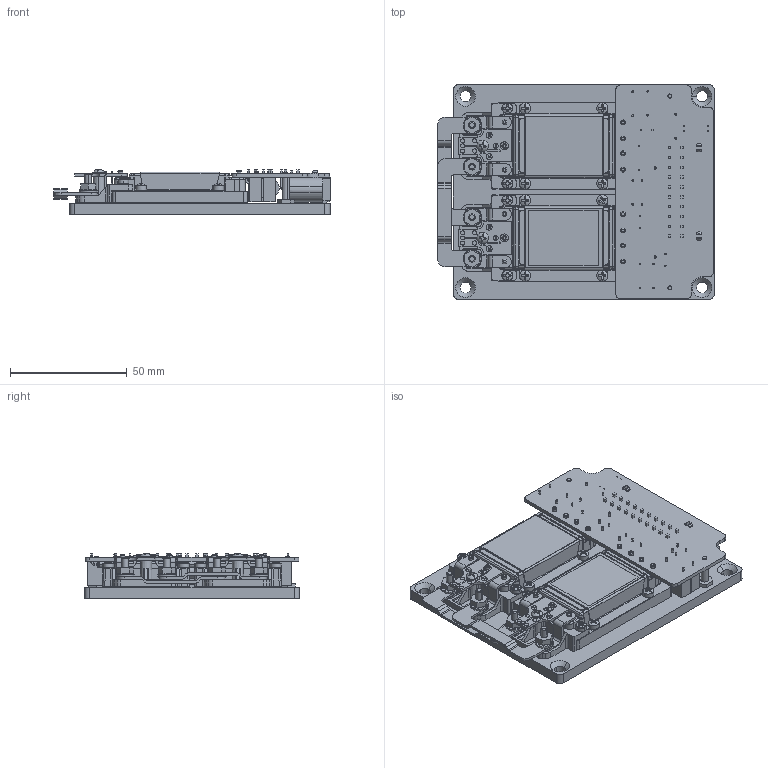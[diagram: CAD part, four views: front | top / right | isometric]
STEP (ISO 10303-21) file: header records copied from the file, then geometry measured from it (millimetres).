
FILE_DESCRIPTION (( 'STEP AP214' ), '1' );
FILE_NAME ('VA-H-LUG-1OUT.STEP', '2011-02-16T18:20:18', ( 'Vicor Employee' ), ( 'Vicor Corporation' ), 'SwSTEP 2.0', 'SolidWorks 2011', '' );
FILE_SCHEMA (( 'AUTOMOTIVE_DESIGN' ));
Length unit declared in the file: inch
Products named in the file (1): VA-H-LUG-1OUT
Bounding box: 118.54 x 92.28 x 19.28 mm (x, y, z)
Volume: 86703.6 mm3; surface area: 81702.9 mm2
Topology: 1 solids, 1 shells, 4871 faces, 13203 edges, 8458 vertices
Faces by surface type: plane 2745, cylinder 1426, bspline 352, cone 186, torus 102, sphere 60
Entity records: 236316 total; most frequent: CARTESIAN_POINT 52147, ORIENTED_EDGE 26342, DIRECTION 23773, EDGE_CURVE 13171, VERTEX_POINT 8458, VECTOR 8353, LINE 8353, AXIS2_PLACEMENT_3D 7710
